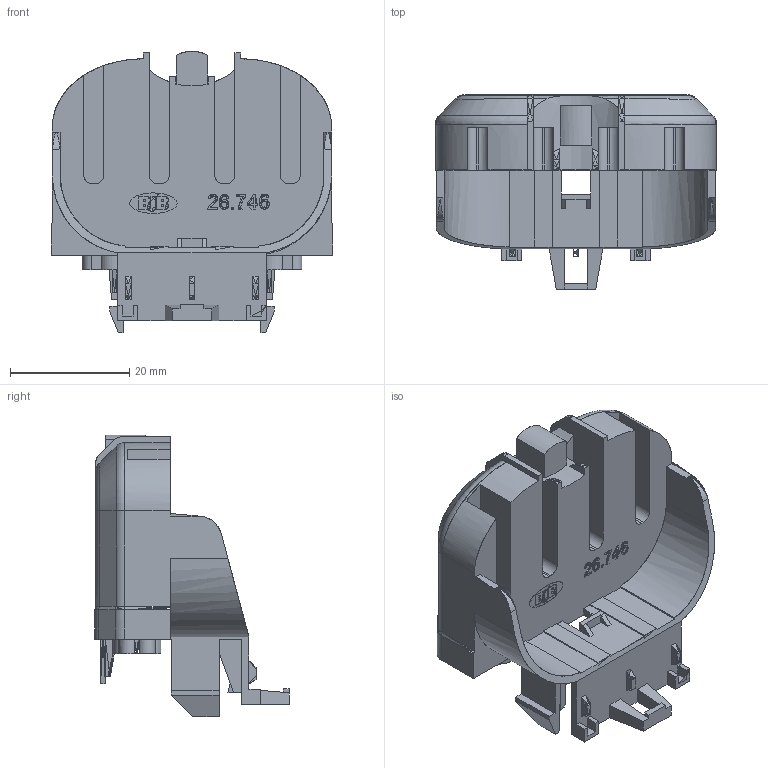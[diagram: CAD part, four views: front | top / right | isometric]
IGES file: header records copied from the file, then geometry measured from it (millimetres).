
Global section: file name: C:\Programme\core_technologie\in\010Y50BY0D.igs; native system: CT CoreTechnologie 3D Evolution; preprocessor: 2006; author: assmuth; date: 071106.082305; units: millimetre
Bounding box: 47.3 x 32.7 x 47.29 mm (x, y, z)
Surface area: 10414.8 mm2 (no closed solid volume)
Topology: 0 solids, 0 shells, 521 faces, 2726 edges, 2657 vertices
Faces by surface type: bspline 521
